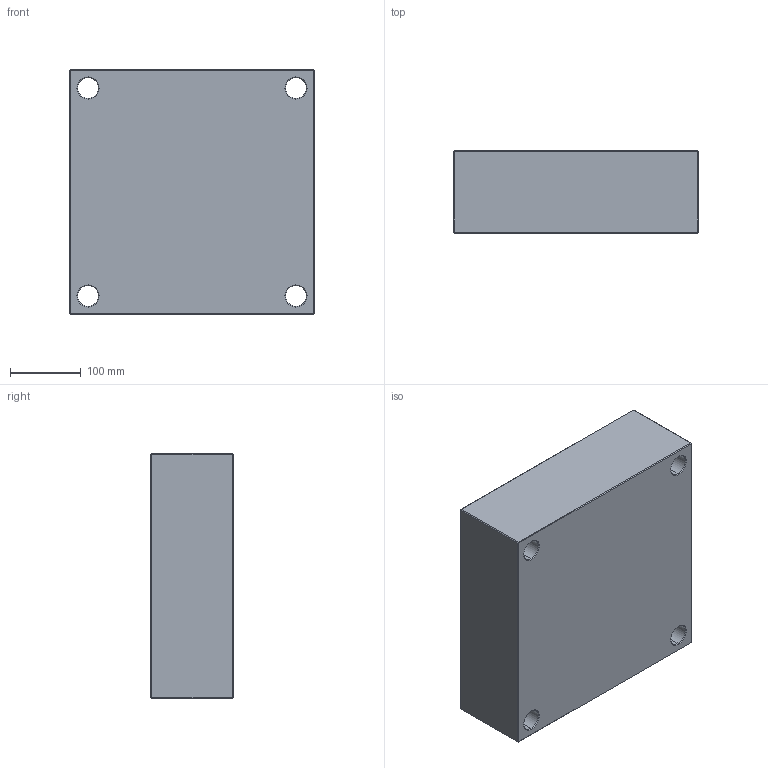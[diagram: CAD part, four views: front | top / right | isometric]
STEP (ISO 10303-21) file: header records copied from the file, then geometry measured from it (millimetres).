
FILE_DESCRIPTION (( 'STEP AP214' ), '1' );
FILE_NAME ('PCX-346x346x116.STEP', '2020-05-04T08:32:59', ( 'August' ), ( '' ), 'SwSTEP 2.0', 'SolidWorks 2018', '' );
FILE_SCHEMA (( 'AUTOMOTIVE_DESIGN' ));
Length unit declared in the file: millimetre
Products named in the file (1): PCX-346x346x116
Bounding box: 346 x 116 x 346 mm (x, y, z)
Volume: 13550551.9 mm3; surface area: 439092.6 mm2
Topology: 1 solids, 1 shells, 82 faces, 168 edges, 96 vertices
Faces by surface type: plane 34, cone 24, cylinder 24
Entity records: 2170 total; most frequent: DIRECTION 406, CARTESIAN_POINT 347, ORIENTED_EDGE 336, EDGE_CURVE 168, AXIS2_PLACEMENT_3D 155, EDGE_LOOP 98, VECTOR 96, VERTEX_POINT 96
